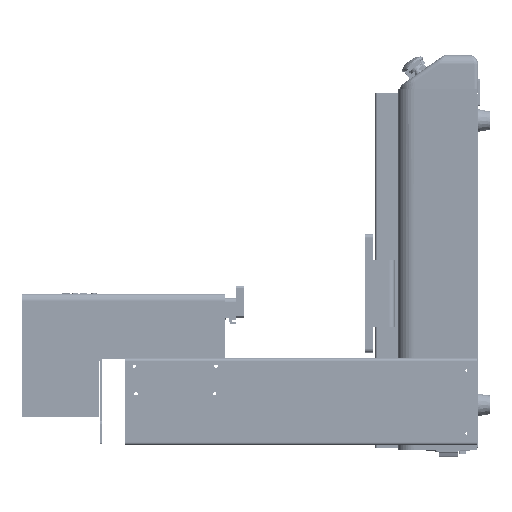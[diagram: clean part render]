
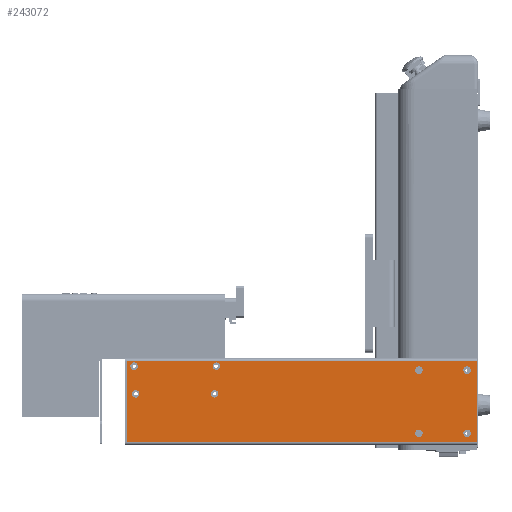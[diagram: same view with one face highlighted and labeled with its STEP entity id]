
A CAD part, left-side view. The second image highlights one B-rep face of the part: STEP entity #243072.
In plain terms, the highlighted planar face has unit normal (1, 0, 0).
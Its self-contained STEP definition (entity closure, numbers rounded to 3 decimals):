
#2309=CIRCLE('',#254155,4.75);
#2310=CIRCLE('',#254156,4.75);
#2311=CIRCLE('',#254157,4.75);
#2312=CIRCLE('',#254158,4.75);
#2313=CIRCLE('',#254159,4.75);
#2314=CIRCLE('',#254160,4.75);
#2315=CIRCLE('',#254161,4.75);
#2316=CIRCLE('',#254162,4.75);
#6618=FACE_BOUND('',#45065,.T.);
#6619=FACE_BOUND('',#45066,.T.);
#6620=FACE_BOUND('',#45067,.T.);
#6621=FACE_BOUND('',#45068,.T.);
#6622=FACE_BOUND('',#45069,.T.);
#6623=FACE_BOUND('',#45070,.T.);
#6624=FACE_BOUND('',#45071,.T.);
#6625=FACE_BOUND('',#45072,.T.);
#30308=FACE_OUTER_BOUND('',#45064,.T.);
#45064=EDGE_LOOP('',(#208402,#208403,#208404,#208405));
#45065=EDGE_LOOP('',(#208406));
#45066=EDGE_LOOP('',(#208407));
#45067=EDGE_LOOP('',(#208408));
#45068=EDGE_LOOP('',(#208409));
#45069=EDGE_LOOP('',(#208410));
#45070=EDGE_LOOP('',(#208411));
#45071=EDGE_LOOP('',(#208412));
#45072=EDGE_LOOP('',(#208413));
#67531=LINE('',#420330,#89866);
#67581=LINE('',#420497,#89916);
#67582=LINE('',#420499,#89917);
#67583=LINE('',#420500,#89918);
#89866=VECTOR('',#297679,102.);
#89916=VECTOR('',#297799,443.);
#89917=VECTOR('',#297800,102.);
#89918=VECTOR('',#297801,443.);
#111860=VERTEX_POINT('',#420328);
#111861=VERTEX_POINT('',#420329);
#111943=VERTEX_POINT('',#420496);
#111944=VERTEX_POINT('',#420498);
#111945=VERTEX_POINT('',#420501);
#111946=VERTEX_POINT('',#420503);
#111947=VERTEX_POINT('',#420505);
#111948=VERTEX_POINT('',#420507);
#111949=VERTEX_POINT('',#420509);
#111950=VERTEX_POINT('',#420511);
#111951=VERTEX_POINT('',#420513);
#111952=VERTEX_POINT('',#420515);
#144241=EDGE_CURVE('',#111860,#111861,#67531,.T.);
#144325=EDGE_CURVE('',#111860,#111943,#67581,.T.);
#144326=EDGE_CURVE('',#111943,#111944,#67582,.T.);
#144327=EDGE_CURVE('',#111944,#111861,#67583,.T.);
#144328=EDGE_CURVE('',#111945,#111945,#2309,.T.);
#144329=EDGE_CURVE('',#111946,#111946,#2310,.T.);
#144330=EDGE_CURVE('',#111947,#111947,#2311,.T.);
#144331=EDGE_CURVE('',#111948,#111948,#2312,.T.);
#144332=EDGE_CURVE('',#111949,#111949,#2313,.T.);
#144333=EDGE_CURVE('',#111950,#111950,#2314,.T.);
#144334=EDGE_CURVE('',#111951,#111951,#2315,.T.);
#144335=EDGE_CURVE('',#111952,#111952,#2316,.T.);
#208402=ORIENTED_EDGE('',*,*,#144241,.F.);
#208403=ORIENTED_EDGE('',*,*,#144325,.T.);
#208404=ORIENTED_EDGE('',*,*,#144326,.T.);
#208405=ORIENTED_EDGE('',*,*,#144327,.T.);
#208406=ORIENTED_EDGE('',*,*,#144328,.F.);
#208407=ORIENTED_EDGE('',*,*,#144329,.F.);
#208408=ORIENTED_EDGE('',*,*,#144330,.F.);
#208409=ORIENTED_EDGE('',*,*,#144331,.F.);
#208410=ORIENTED_EDGE('',*,*,#144332,.F.);
#208411=ORIENTED_EDGE('',*,*,#144333,.F.);
#208412=ORIENTED_EDGE('',*,*,#144334,.F.);
#208413=ORIENTED_EDGE('',*,*,#144335,.F.);
#218481=PLANE('',#254154);
#243072=ADVANCED_FACE('',(#30308,#6618,#6619,#6620,#6621,#6622,#6623,#6624,
#6625),#218481,.T.);
#254154=AXIS2_PLACEMENT_3D('',#420495,#297797,#297798);
#254155=AXIS2_PLACEMENT_3D('',#420502,#297802,#297803);
#254156=AXIS2_PLACEMENT_3D('',#420504,#297804,#297805);
#254157=AXIS2_PLACEMENT_3D('',#420506,#297806,#297807);
#254158=AXIS2_PLACEMENT_3D('',#420508,#297808,#297809);
#254159=AXIS2_PLACEMENT_3D('',#420510,#297810,#297811);
#254160=AXIS2_PLACEMENT_3D('',#420512,#297812,#297813);
#254161=AXIS2_PLACEMENT_3D('',#420514,#297814,#297815);
#254162=AXIS2_PLACEMENT_3D('',#420516,#297816,#297817);
#297679=DIRECTION('',(0.,0.,1.));
#297797=DIRECTION('center_axis',(1.,0.,0.));
#297798=DIRECTION('ref_axis',(0.,0.,-1.));
#297799=DIRECTION('',(0.,1.,0.));
#297800=DIRECTION('',(0.,0.,1.));
#297801=DIRECTION('',(0.,-1.,0.));
#297802=DIRECTION('center_axis',(1.,0.,0.));
#297803=DIRECTION('ref_axis',(0.,0.,-1.));
#297804=DIRECTION('center_axis',(1.,0.,0.));
#297805=DIRECTION('ref_axis',(0.,0.,-1.));
#297806=DIRECTION('center_axis',(1.,0.,0.));
#297807=DIRECTION('ref_axis',(0.,0.,-1.));
#297808=DIRECTION('center_axis',(1.,0.,0.));
#297809=DIRECTION('ref_axis',(0.,0.,-1.));
#297810=DIRECTION('center_axis',(1.,0.,0.));
#297811=DIRECTION('ref_axis',(0.,0.,-1.));
#297812=DIRECTION('center_axis',(1.,0.,0.));
#297813=DIRECTION('ref_axis',(0.,0.,-1.));
#297814=DIRECTION('center_axis',(1.,0.,0.));
#297815=DIRECTION('ref_axis',(0.,0.,-1.));
#297816=DIRECTION('center_axis',(1.,0.,0.));
#297817=DIRECTION('ref_axis',(0.,0.,-1.));
#420328=CARTESIAN_POINT('',(-274.447,-123.151,-219.5));
#420329=CARTESIAN_POINT('',(-274.447,-123.151,-117.5));
#420330=CARTESIAN_POINT('',(-274.447,-123.151,-219.5));
#420495=CARTESIAN_POINT('Origin',(-274.447,98.349,-168.5));
#420496=CARTESIAN_POINT('',(-274.447,319.849,-219.5));
#420497=CARTESIAN_POINT('',(-274.447,-123.151,-219.5));
#420498=CARTESIAN_POINT('',(-274.447,319.849,-117.5));
#420499=CARTESIAN_POINT('',(-274.447,319.849,-219.5));
#420500=CARTESIAN_POINT('',(-274.447,319.849,-117.5));
#420501=CARTESIAN_POINT('',(-274.447,208.349,-153.75));
#420502=CARTESIAN_POINT('Origin',(-274.447,208.349,-158.5));
#420503=CARTESIAN_POINT('',(-274.447,206.349,-118.75));
#420504=CARTESIAN_POINT('Origin',(-274.447,206.349,-123.5));
#420505=CARTESIAN_POINT('',(-274.447,310.349,-118.75));
#420506=CARTESIAN_POINT('Origin',(-274.447,310.349,-123.5));
#420507=CARTESIAN_POINT('',(-274.447,308.349,-153.75));
#420508=CARTESIAN_POINT('Origin',(-274.447,308.349,-158.5));
#420509=CARTESIAN_POINT('',(-274.447,-111.151,-203.75));
#420510=CARTESIAN_POINT('Origin',(-274.447,-111.151,-208.5));
#420511=CARTESIAN_POINT('',(-274.447,-50.151,-203.75));
#420512=CARTESIAN_POINT('Origin',(-274.447,-50.151,-208.5));
#420513=CARTESIAN_POINT('',(-274.447,-111.151,-123.75));
#420514=CARTESIAN_POINT('Origin',(-274.447,-111.151,-128.5));
#420515=CARTESIAN_POINT('',(-274.447,-50.151,-123.75));
#420516=CARTESIAN_POINT('Origin',(-274.447,-50.151,-128.5));
